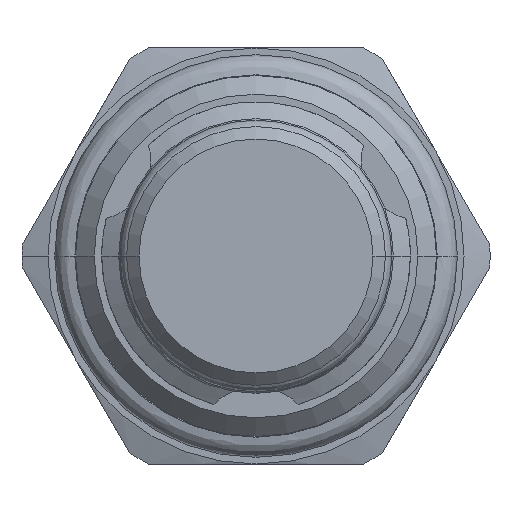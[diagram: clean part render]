
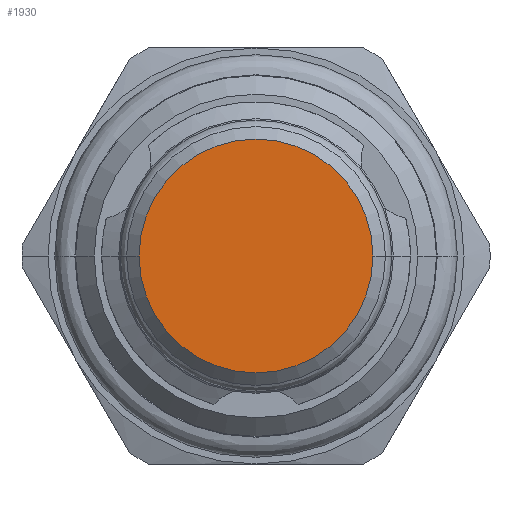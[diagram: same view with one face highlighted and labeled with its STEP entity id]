
A CAD part, front view. The second image highlights one B-rep face of the part: STEP entity #1930.
In plain terms, the highlighted planar face has unit normal (0, -1, 0).
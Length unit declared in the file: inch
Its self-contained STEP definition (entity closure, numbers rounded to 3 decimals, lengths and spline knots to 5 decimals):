
#215=CARTESIAN_POINT('',(0.,-1.25277,0.));
#216=DIRECTION('',(0.,-1.,0.));
#217=DIRECTION('',(1.,0.,0.));
#218=AXIS2_PLACEMENT_3D('',#215,#216,#217);
#225=CARTESIAN_POINT('',(0.,-1.25277,0.));
#226=DIRECTION('',(0.,-1.,0.));
#227=DIRECTION('',(-1.,0.,0.));
#228=AXIS2_PLACEMENT_3D('',#225,#226,#227);
#1506=CARTESIAN_POINT('',(0.281,-1.25277,0.));
#1507=CARTESIAN_POINT('',(-0.281,-1.25277,0.));
#1508=VERTEX_POINT('',#1506);
#1509=VERTEX_POINT('',#1507);
#1920=CARTESIAN_POINT('',(0.,-1.25277,0.));
#1921=DIRECTION('',(0.,1.,0.));
#1922=DIRECTION('',(1.,0.,0.));
#1923=AXIS2_PLACEMENT_3D('',#1920,#1921,#1922);
#1924=PLANE('',#1923);
#1926=ORIENTED_EDGE('',*,*,#1925,.F.);
#1927=ORIENTED_EDGE('',*,*,#1910,.F.);
#1928=EDGE_LOOP('',(#1926,#1927));
#1929=FACE_OUTER_BOUND('',#1928,.F.);
#1930=ADVANCED_FACE('',(#1929),#1924,.F.);
#219=CIRCLE('',#218,0.281);
#229=CIRCLE('',#228,0.281);
#1910=EDGE_CURVE('',#1508,#1509,#219,.T.);
#1925=EDGE_CURVE('',#1509,#1508,#229,.T.);
